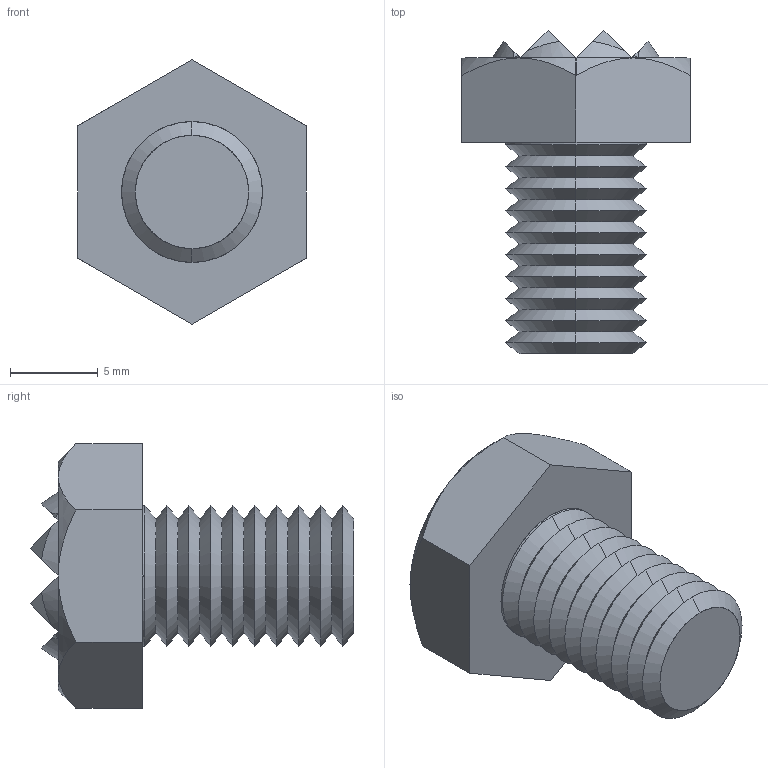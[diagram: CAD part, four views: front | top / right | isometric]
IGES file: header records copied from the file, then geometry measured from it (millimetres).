
Start section: SolidWorks IGES file using analytic representation for surfaces
Global section: file name: C:\Documents and Settings\IANO\Desktop\Temp File\Process pending\NEW\35400_v2\35400_v2_20170704_IGES\35400.W0003.igs; native system: SolidWorks 2009; preprocessor: SolidWorks 2009; author: IANO; date: 170703.082028; units: millimetre
Bounding box: 13 x 18.4 x 15.01 mm (x, y, z)
Surface area: 950.9 mm2 (no closed solid volume)
Topology: 0 solids, 0 shells, 116 faces, 653 edges, 653 vertices
Faces by surface type: revolution 59, bspline 57
